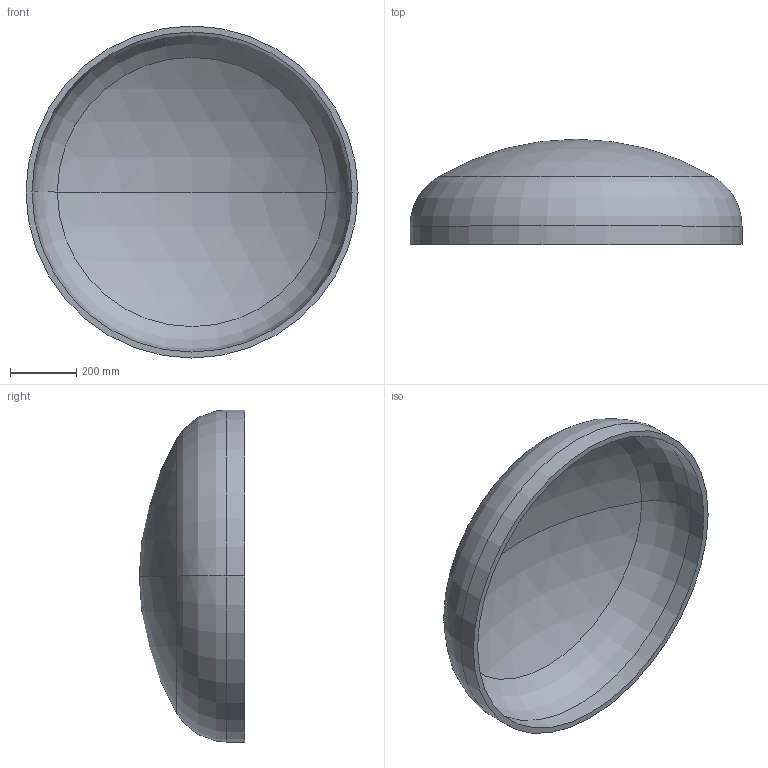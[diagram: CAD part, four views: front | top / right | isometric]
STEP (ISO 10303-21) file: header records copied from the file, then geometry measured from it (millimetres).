
FILE_DESCRIPTION (( 'STEP AP203' ), '1' );
FILE_NAME ('DIN 28013 Korbbogenform_-_Boden DIN 28013 - 1000 x 55 - I - s=18.step', '2016-07-01T08:43:52', ( '' ), ( '' ), 'SwSTEP 2.0', 'SolidWorks 2013', '' );
FILE_SCHEMA (( 'CONFIG_CONTROL_DESIGN' ));
Length unit declared in the file: millimetre
Products named in the file (1): DIN 28013 Korbbogenform_-_Boden DIN 28013 - 1000 x 55 - I - s=18
Bounding box: 1000 x 317.04 x 1000 mm (x, y, z)
Volume: 22199421.8 mm3; surface area: 2522811 mm2
Topology: 1 solids, 1 shells, 13 faces, 24 edges, 14 vertices
Faces by surface type: torus 4, cylinder 4, sphere 4, plane 1
Entity records: 407 total; most frequent: DIRECTION 72, CARTESIAN_POINT 52, ORIENTED_EDGE 48, AXIS2_PLACEMENT_3D 34, EDGE_CURVE 24, CIRCLE 20, VERTEX_POINT 14, EDGE_LOOP 14
